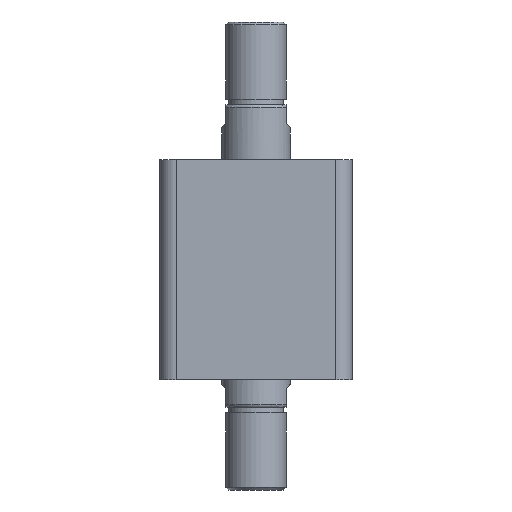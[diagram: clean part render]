
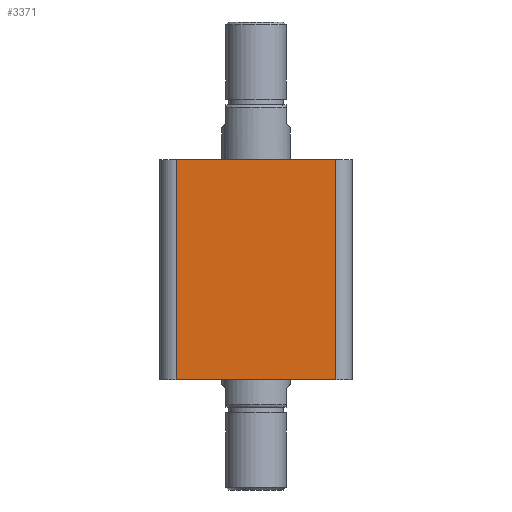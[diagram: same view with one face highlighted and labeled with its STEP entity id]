
A CAD part, front view. The second image highlights one B-rep face of the part: STEP entity #3371.
In plain terms, the highlighted planar face has unit normal (0, -1, 0).
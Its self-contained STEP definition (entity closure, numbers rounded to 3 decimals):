
#183 = AXIS2_PLACEMENT_3D ( 'NONE', #1389, #1397, #1398 ) ;
#270 = ORIENTED_EDGE ( 'NONE', *, *, #3014, .T. ) ;
#288 = ORIENTED_EDGE ( 'NONE', *, *, #3013, .T. ) ;
#297 = VERTEX_POINT ( 'NONE', #362 ) ;
#305 = VERTEX_POINT ( 'NONE', #354 ) ;
#309 = VERTEX_POINT ( 'NONE', #352 ) ;
#339 = VERTEX_POINT ( 'NONE', #3454 ) ;
#352 = CARTESIAN_POINT ( 'NONE',  ( -29., -35., 80. ) ) ;
#354 = CARTESIAN_POINT ( 'NONE',  ( -29., -35., 0. ) ) ;
#362 = CARTESIAN_POINT ( 'NONE',  ( 29., -35., 80. ) ) ;
#387 = EDGE_LOOP ( 'NONE', ( #735, #725, #288, #270 ) ) ;
#725 = ORIENTED_EDGE ( 'NONE', *, *, #3012, .T. ) ;
#735 = ORIENTED_EDGE ( 'NONE', *, *, #3011, .F. ) ;
#1389 = CARTESIAN_POINT ( 'NONE',  ( -35., -35., 80. ) ) ;
#1396 = PLANE ( 'NONE',  #183 ) ;
#1397 = DIRECTION ( 'NONE',  ( 0., 1., 0. ) ) ;
#1398 = DIRECTION ( 'NONE',  ( 0., 0., 1. ) ) ;
#1687 = FACE_OUTER_BOUND ( 'NONE', #387, .T. ) ;
#2237 = LINE ( 'NONE', #2659, #2250 ) ;
#2243 = LINE ( 'NONE', #2684, #2246 ) ;
#2245 = LINE ( 'NONE', #2686, #2248 ) ;
#2246 = VECTOR ( 'NONE', #2685, 1000. ) ;
#2248 = VECTOR ( 'NONE', #2687, 1000. ) ;
#2249 = LINE ( 'NONE', #2689, #2252 ) ;
#2250 = VECTOR ( 'NONE', #2688, 1000. ) ;
#2252 = VECTOR ( 'NONE', #2690, 1000. ) ;
#2659 = CARTESIAN_POINT ( 'NONE',  ( -35., -35., 0. ) ) ;
#2684 = CARTESIAN_POINT ( 'NONE',  ( -35., -35., 80. ) ) ;
#2685 = DIRECTION ( 'NONE',  ( 1., 0., 0. ) ) ;
#2686 = CARTESIAN_POINT ( 'NONE',  ( -29., -35., 80. ) ) ;
#2687 = DIRECTION ( 'NONE',  ( 0., 0., -1. ) ) ;
#2688 = DIRECTION ( 'NONE',  ( 1., 0., 0. ) ) ;
#2689 = CARTESIAN_POINT ( 'NONE',  ( 29., -35., 80. ) ) ;
#2690 = DIRECTION ( 'NONE',  ( 0., 0., 1. ) ) ;
#3011 = EDGE_CURVE ( 'NONE', #309, #297, #2243, .T. ) ;
#3012 = EDGE_CURVE ( 'NONE', #309, #305, #2245, .T. ) ;
#3013 = EDGE_CURVE ( 'NONE', #305, #339, #2237, .T. ) ;
#3014 = EDGE_CURVE ( 'NONE', #339, #297, #2249, .T. ) ;
#3371 = ADVANCED_FACE ( 'NONE', ( #1687 ), #1396, .F. ) ;
#3454 = CARTESIAN_POINT ( 'NONE',  ( 29., -35., 0. ) ) ;
